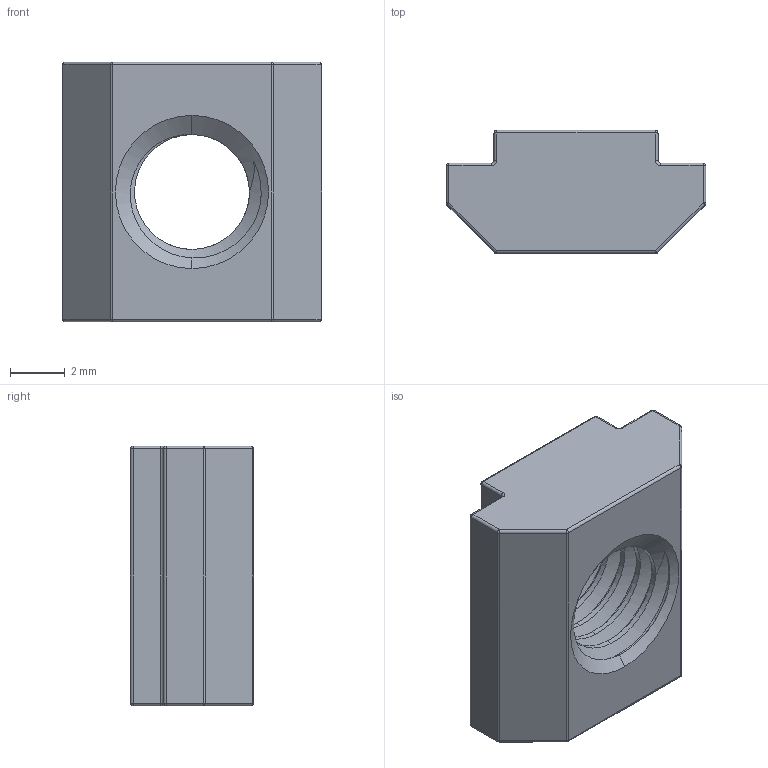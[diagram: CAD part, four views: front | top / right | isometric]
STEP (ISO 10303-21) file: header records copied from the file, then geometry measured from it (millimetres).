
FILE_DESCRIPTION (( 'STEP AP203' ), '1' );
FILE_NAME ('TANLN-AL-20-M5.STEP', '2026-08-25T07:33:15', ( '' ), ( '' ), 'SwSTEP 2.0', 'SolidWorks 2020', '' );
FILE_SCHEMA (( 'CONFIG_CONTROL_DESIGN' ));
Length unit declared in the file: millimetre
Products named in the file (1): TANLN-AL-20-M5
Bounding box: 9.5 x 4.5 x 9.5 mm (x, y, z)
Volume: 257.8 mm3; surface area: 371.4 mm2
Topology: 1 solids, 1 shells, 79 faces, 185 edges, 96 vertices
Faces by surface type: cylinder 40, sphere 16, plane 12, cone 4, torus 4, bspline 3
Entity records: 3533 total; most frequent: CARTESIAN_POINT 1778, DIRECTION 369, ORIENTED_EDGE 346, EDGE_CURVE 173, AXIS2_PLACEMENT_3D 148, VERTEX_POINT 96, EDGE_LOOP 81, FACE_OUTER_BOUND 79
